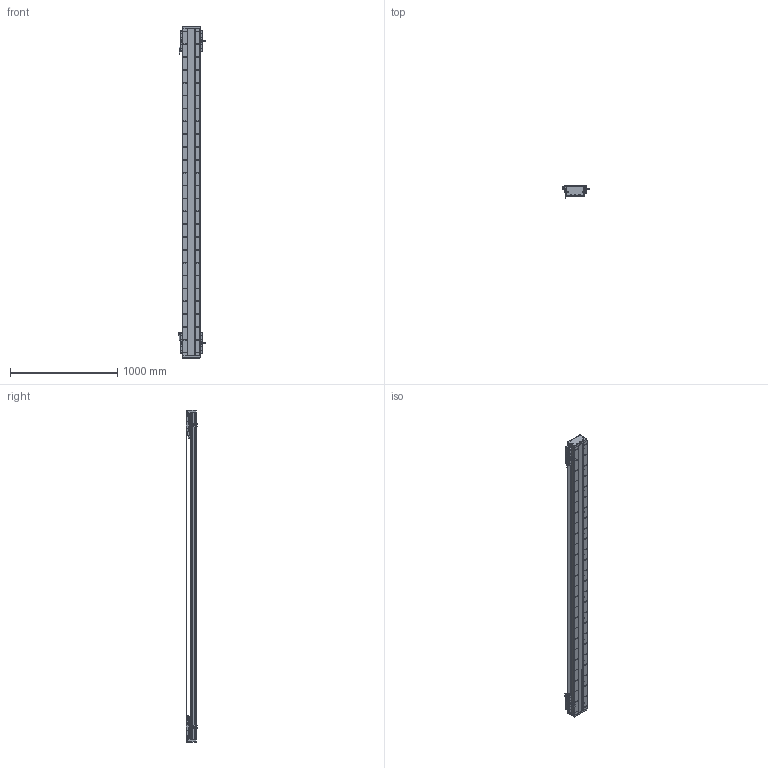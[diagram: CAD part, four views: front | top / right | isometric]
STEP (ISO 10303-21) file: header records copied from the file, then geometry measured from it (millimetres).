
FILE_DESCRIPTION (( 'STEP AP203' ), '1' );
FILE_NAME ('DA-C165-2-C2-T2600-C010-0.2 直线电机.STEP', '2023-05-11T08:30:18', ( '微软用户' ), ( '微软中国' ), 'SwSTEP 2.0', 'SolidWorks 2019', '' );
FILE_SCHEMA (( 'CONFIG_CONTROL_DESIGN' ));
Length unit declared in the file: millimetre
Products named in the file (22): 复件 DA165-GD-DG-H-00 端盖^复件 CU165钢带组件_DA-C165-C2-T-C010-0.2-N 直线电机; DA-C165-2-C2-T2600-C010-0.2 眻盄萇儂; 复件 CKM02-W075-C1C2-TP-3.0 一体电机-C2^DA-C165-C2-T-C010-0.2-N 直线电机; IU-CU165-L-00 菁釱_L3060; 复件 DA165-GYP-00 光电感应片^DA-C165-C2-T-C010-0.2-N 直线电机; 复件 DA95-HXJ-00 缓冲橡胶^DA-C165-C2-T-C010-0.2-N 直线电机; 葩璃 DA95-GT-T-00^IU-CU165-L 菁釱絳寢_T; 珨极趙賑雄怢啣wf-C2; 葩璃 PM-Y45^DA-C165-C2-T-C010-0.2-N 眻盄萇儂; 复件 DA165-GDYK-00 钢带压块^复件 CU165钢带组件_DA-C165-C2-T-C010-0.2-N 直线电机; 复件 66338-1000-006-00 光电感应块^DA-C165-C2-T-C010-0.2-N 直线电机; IU-CU165-L 菁釱絳寢; 复件 DMA-010-0.2 读数头^DA-C165-C2-T-C010-0.2-N 直线电机; 复件 六角薄螺母 M3^DA-C165-C2-T-C010-0.2-N 直线电机_GB_FASTENER_NUT_STNAB M3-C; 复件 DKW-HXJ-JY-00 缓冲橡胶^DA-C165-C2-T-C010-0.2-N 直线电机; 复件 DA165-GD-1860-002-00 钢带盖板^复件 CU165钢带组件_DA-C165-C2-T-C010-0.2-N 直线电机; 复件 CU165钢带组件^DA-C165-C2-T-C010-0.2-N 直线电机; 葩璃 CKM01-W075-TRL^DA-C165-C2-T-C010-0.2-N 眻盄萇儂; 复件 DA126-GYP-ZJ-00 中间光电感应片^DA-C165-C2-T-C010-0.2-N 直线电机; 葩璃 PM-T45^DA-C165-C2-T-C010-0.2-N 眻盄萇儂; 复件 DA165-GDLK-00 钢带拉块^复件 CU165钢带组件_DA-C165-C2-T-C010-0.2-N 直线电机; 复件 XD-U-02L 磁栅尺^DA-C165-C2-T-C010-0.2-N 直线电机_T
Assembly tree (43 placements, depth 3):
  DA-C165-2-C2-T2600-C010-0.2 眻盄萇儂
    IU-CU165-L 菁釱絳寢
      IU-CU165-L-00 菁釱_L3060
      葩璃 DA95-GT-T-00^IU-CU165-L 菁釱絳寢_T  x4
    复件 XD-U-02L 磁栅尺^DA-C165-C2-T-C010-0.2-N 直线电机_T
    葩璃 PM-T45^DA-C165-C2-T-C010-0.2-N 眻盄萇儂  x4
    葩璃 CKM01-W075-TRL^DA-C165-C2-T-C010-0.2-N 眻盄萇儂
    复件 CU165钢带组件^DA-C165-C2-T-C010-0.2-N 直线电机
      复件 DA165-GD-DG-H-00 端盖^复件 CU165钢带组件_DA-C165-C2-T-C010-0.2-N 直线电机  x2
      复件 DA165-GDYK-00 钢带压块^复件 CU165钢带组件_DA-C165-C2-T-C010-0.2-N 直线电机  x2
      复件 DA165-GD-1860-002-00 钢带盖板^复件 CU165钢带组件_DA-C165-C2-T-C010-0.2-N 直线电机
      复件 DA165-GDLK-00 钢带拉块^复件 CU165钢带组件_DA-C165-C2-T-C010-0.2-N 直线电机  x2
    复件 DA95-HXJ-00 缓冲橡胶^DA-C165-C2-T-C010-0.2-N 直线电机  x4
    复件 CKM02-W075-C1C2-TP-3.0 一体电机-C2^DA-C165-C2-T-C010-0.2-N 直线电机  x2
    复件 DMA-010-0.2 读数头^DA-C165-C2-T-C010-0.2-N 直线电机  x2
    复件 DA165-GYP-00 光电感应片^DA-C165-C2-T-C010-0.2-N 直线电机  x2
    复件 66338-1000-006-00 光电感应块^DA-C165-C2-T-C010-0.2-N 直线电机
    葩璃 PM-Y45^DA-C165-C2-T-C010-0.2-N 眻盄萇儂
    复件 DA126-GYP-ZJ-00 中间光电感应片^DA-C165-C2-T-C010-0.2-N 直线电机
    复件 DKW-HXJ-JY-00 缓冲橡胶^DA-C165-C2-T-C010-0.2-N 直线电机  x2
    复件 六角薄螺母 M3^DA-C165-C2-T-C010-0.2-N 直线电机_GB_FASTENER_NUT_STNAB M3-C  x6
    珨极趙賑雄怢啣wf-C2  x2
Bounding box: 247.2 x 111.45 x 3100 mm (x, y, z)
Volume: 18448448.7 mm3; surface area: 5423028.3 mm2
Topology: 119 solids, 119 shells, 5899 faces, 16812 edges, 10648 vertices
Faces by surface type: cylinder 3284, plane 1823, cone 704, torus 80, sphere 8
Entity records: 148552 total; most frequent: CARTESIAN_POINT 40891, ORIENTED_EDGE 22568, DIRECTION 21442, EDGE_CURVE 11284, AXIS2_PLACEMENT_3D 8166, VERTEX_POINT 7385, VECTOR 5110, LINE 5110
